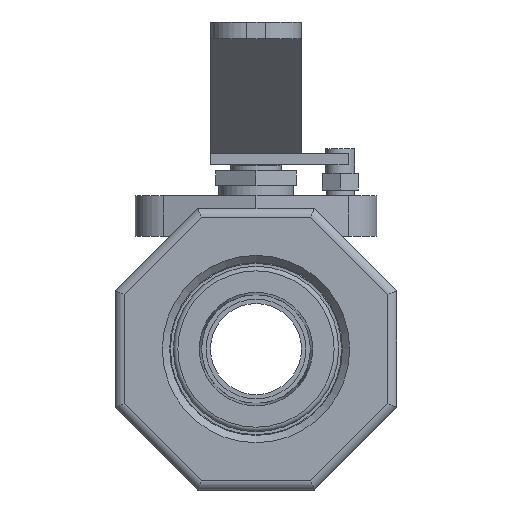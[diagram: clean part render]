
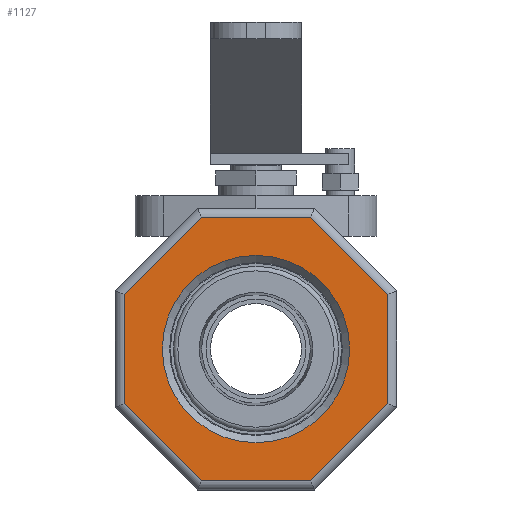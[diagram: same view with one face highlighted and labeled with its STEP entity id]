
A CAD part, left-side view. The second image highlights one B-rep face of the part: STEP entity #1127.
In plain terms, the highlighted planar face has unit normal (-1, 0, 0).
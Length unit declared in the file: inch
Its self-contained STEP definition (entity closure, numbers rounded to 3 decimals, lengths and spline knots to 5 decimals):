
#747=CARTESIAN_POINT('',(0.595,0.9045,0.37466));
#748=VERTEX_POINT('',#747);
#749=CARTESIAN_POINT('',(0.595,0.37466,0.9045));
#750=VERTEX_POINT('',#749);
#751=CARTESIAN_POINT('',(0.595,0.9045,0.37466));
#752=DIRECTION('',(0.0,-0.707,0.707));
#753=VECTOR('',#752,0.74931);
#754=LINE('',#751,#753);
#755=EDGE_CURVE('',#748,#750,#754,.T.);
#789=CARTESIAN_POINT('',(0.595,-0.37466,0.9045));
#790=VERTEX_POINT('',#789);
#791=CARTESIAN_POINT('',(0.595,0.37466,0.9045));
#792=DIRECTION('',(0.0,-1.0,0.0));
#793=VECTOR('',#792,0.74931);
#794=LINE('',#791,#793);
#795=EDGE_CURVE('',#750,#790,#794,.T.);
#821=CARTESIAN_POINT('',(0.595,-0.9045,0.37466));
#822=VERTEX_POINT('',#821);
#823=CARTESIAN_POINT('',(0.595,-0.37466,0.9045));
#824=DIRECTION('',(0.,-0.707,-0.707));
#825=VECTOR('',#824,0.74931);
#826=LINE('',#823,#825);
#827=EDGE_CURVE('',#790,#822,#826,.T.);
#853=CARTESIAN_POINT('',(0.595,-0.9045,-0.37466));
#854=VERTEX_POINT('',#853);
#855=CARTESIAN_POINT('',(0.595,-0.9045,0.37466));
#856=DIRECTION('',(0.0,0.0,-1.0));
#857=VECTOR('',#856,0.74931);
#858=LINE('',#855,#857);
#859=EDGE_CURVE('',#822,#854,#858,.T.);
#885=CARTESIAN_POINT('',(0.595,-0.37466,-0.9045));
#886=VERTEX_POINT('',#885);
#887=CARTESIAN_POINT('',(0.595,-0.9045,-0.37466));
#888=DIRECTION('',(0.0,0.707,-0.707));
#889=VECTOR('',#888,0.74931);
#890=LINE('',#887,#889);
#891=EDGE_CURVE('',#854,#886,#890,.T.);
#917=CARTESIAN_POINT('',(0.595,0.37466,-0.9045));
#918=VERTEX_POINT('',#917);
#919=CARTESIAN_POINT('',(0.595,-0.37466,-0.9045));
#920=DIRECTION('',(0.0,1.0,0.0));
#921=VECTOR('',#920,0.74931);
#922=LINE('',#919,#921);
#923=EDGE_CURVE('',#886,#918,#922,.T.);
#949=CARTESIAN_POINT('',(0.595,0.9045,-0.37466));
#950=VERTEX_POINT('',#949);
#951=CARTESIAN_POINT('',(0.595,0.37466,-0.9045));
#952=DIRECTION('',(0.,0.707,0.707));
#953=VECTOR('',#952,0.74931);
#954=LINE('',#951,#953);
#955=EDGE_CURVE('',#918,#950,#954,.T.);
#981=CARTESIAN_POINT('',(0.595,0.9045,-0.37466));
#982=DIRECTION('',(0.0,0.0,1.0));
#983=VECTOR('',#982,0.74931);
#984=LINE('',#981,#983);
#985=EDGE_CURVE('',#950,#748,#984,.T.);
#1101=CARTESIAN_POINT('',(0.595,0.,0.));
#1102=DIRECTION('',(-1.0,0.0,0.0));
#1103=DIRECTION('',(0.0,0.0,-1.0));
#1104=AXIS2_PLACEMENT_3D('',#1101,#1102,#1103);
#1105=PLANE('',#1104);
#1106=ORIENTED_EDGE('',*,*,#755,.F.);
#1107=ORIENTED_EDGE('',*,*,#985,.F.);
#1108=ORIENTED_EDGE('',*,*,#955,.F.);
#1109=ORIENTED_EDGE('',*,*,#923,.F.);
#1110=ORIENTED_EDGE('',*,*,#891,.F.);
#1111=ORIENTED_EDGE('',*,*,#859,.F.);
#1112=ORIENTED_EDGE('',*,*,#827,.F.);
#1113=ORIENTED_EDGE('',*,*,#795,.F.);
#1114=EDGE_LOOP('',(#1106,#1107,#1108,#1109,#1110,#1111,#1112,#1113));
#1115=FACE_OUTER_BOUND('',#1114,.T.);
#1116=CARTESIAN_POINT('',(0.595,-0.6425,0.));
#1117=VERTEX_POINT('',#1116);
#1118=CARTESIAN_POINT('',(0.595,0.0,0.));
#1119=DIRECTION('',(-1.0,0.0,0.0));
#1120=DIRECTION('',(0.0,1.0,0.0));
#1121=AXIS2_PLACEMENT_3D('',#1118,#1119,#1120);
#1122=CIRCLE('',#1121,0.6425);
#1123=EDGE_CURVE('',#1117,#1117,#1122,.T.);
#1124=ORIENTED_EDGE('',*,*,#1123,.F.);
#1125=EDGE_LOOP('',(#1124));
#1126=FACE_BOUND('',#1125,.T.);
#1127=ADVANCED_FACE('',(#1115,#1126),#1105,.T.);
